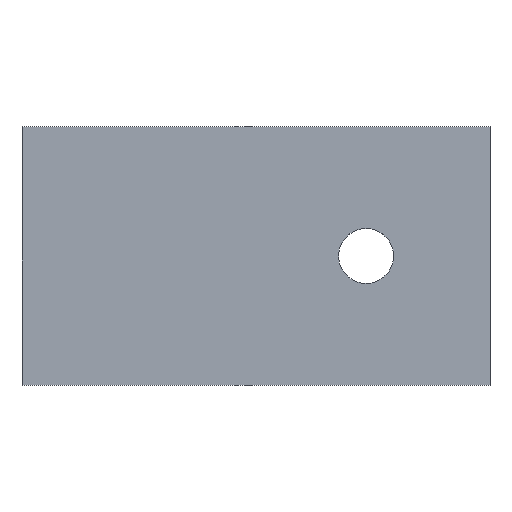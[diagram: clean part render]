
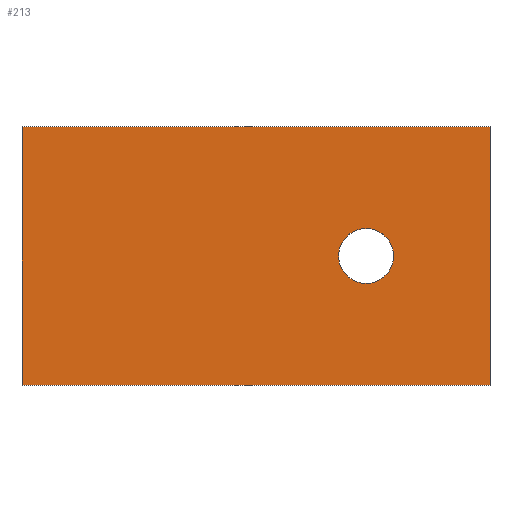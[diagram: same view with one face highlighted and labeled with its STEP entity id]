
A CAD part, top view. The second image highlights one B-rep face of the part: STEP entity #213.
In plain terms, the highlighted planar face has unit normal (0, 0, 1).
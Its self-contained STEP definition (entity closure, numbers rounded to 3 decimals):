
#24 = VERTEX_POINT('',#25);
#25 = CARTESIAN_POINT('',(-125.,-47.,-114.));
#32 = PLANE('',#33);
#33 = AXIS2_PLACEMENT_3D('',#34,#35,#36);
#34 = CARTESIAN_POINT('',(-125.,-47.,-120.));
#35 = DIRECTION('',(1.,0.,-0.));
#36 = DIRECTION('',(0.,0.,1.));
#44 = PLANE('',#45);
#45 = AXIS2_PLACEMENT_3D('',#46,#47,#48);
#46 = CARTESIAN_POINT('',(-125.,-47.,-120.));
#47 = DIRECTION('',(-0.,1.,0.));
#48 = DIRECTION('',(0.,0.,1.));
#85 = VERTEX_POINT('',#86);
#86 = CARTESIAN_POINT('',(-125.,47.,-114.));
#100 = PLANE('',#101);
#101 = AXIS2_PLACEMENT_3D('',#102,#103,#104);
#102 = CARTESIAN_POINT('',(-125.,47.,-120.));
#103 = DIRECTION('',(-0.,1.,0.));
#104 = DIRECTION('',(0.,0.,1.));
#112 = EDGE_CURVE('',#24,#85,#113,.T.);
#113 = SURFACE_CURVE('',#114,(#118,#125),.PCURVE_S1.);
#114 = LINE('',#115,#116);
#115 = CARTESIAN_POINT('',(-125.,-47.,-114.));
#116 = VECTOR('',#117,1.);
#117 = DIRECTION('',(-0.,1.,0.));
#118 = PCURVE('',#32,#119);
#119 = DEFINITIONAL_REPRESENTATION('',(#120),#124);
#120 = LINE('',#121,#122);
#121 = CARTESIAN_POINT('',(6.,0.));
#122 = VECTOR('',#123,1.);
#123 = DIRECTION('',(0.,-1.));
#124 = ( GEOMETRIC_REPRESENTATION_CONTEXT(2) 
PARAMETRIC_REPRESENTATION_CONTEXT() REPRESENTATION_CONTEXT('2D SPACE',''
  ) );
#125 = PCURVE('',#126,#131);
#126 = PLANE('',#127);
#127 = AXIS2_PLACEMENT_3D('',#128,#129,#130);
#128 = CARTESIAN_POINT('',(-125.,-47.,-114.));
#129 = DIRECTION('',(0.,0.,1.));
#130 = DIRECTION('',(1.,0.,-0.));
#131 = DEFINITIONAL_REPRESENTATION('',(#132),#136);
#132 = LINE('',#133,#134);
#133 = CARTESIAN_POINT('',(0.,0.));
#134 = VECTOR('',#135,1.);
#135 = DIRECTION('',(0.,1.));
#136 = ( GEOMETRIC_REPRESENTATION_CONTEXT(2) 
PARAMETRIC_REPRESENTATION_CONTEXT() REPRESENTATION_CONTEXT('2D SPACE',''
  ) );
#165 = EDGE_CURVE('',#24,#166,#168,.T.);
#166 = VERTEX_POINT('',#167);
#167 = CARTESIAN_POINT('',(45.,-47.,-114.));
#168 = SURFACE_CURVE('',#169,(#173,#180),.PCURVE_S1.);
#169 = LINE('',#170,#171);
#170 = CARTESIAN_POINT('',(-125.,-47.,-114.));
#171 = VECTOR('',#172,1.);
#172 = DIRECTION('',(1.,0.,-0.));
#173 = PCURVE('',#44,#174);
#174 = DEFINITIONAL_REPRESENTATION('',(#175),#179);
#175 = LINE('',#176,#177);
#176 = CARTESIAN_POINT('',(6.,0.));
#177 = VECTOR('',#178,1.);
#178 = DIRECTION('',(0.,1.));
#179 = ( GEOMETRIC_REPRESENTATION_CONTEXT(2) 
PARAMETRIC_REPRESENTATION_CONTEXT() REPRESENTATION_CONTEXT('2D SPACE',''
  ) );
#180 = PCURVE('',#126,#181);
#181 = DEFINITIONAL_REPRESENTATION('',(#182),#186);
#182 = LINE('',#183,#184);
#183 = CARTESIAN_POINT('',(0.,0.));
#184 = VECTOR('',#185,1.);
#185 = DIRECTION('',(1.,0.));
#186 = ( GEOMETRIC_REPRESENTATION_CONTEXT(2) 
PARAMETRIC_REPRESENTATION_CONTEXT() REPRESENTATION_CONTEXT('2D SPACE',''
  ) );
#202 = PLANE('',#203);
#203 = AXIS2_PLACEMENT_3D('',#204,#205,#206);
#204 = CARTESIAN_POINT('',(45.,-47.,-120.));
#205 = DIRECTION('',(1.,0.,-0.));
#206 = DIRECTION('',(0.,0.,1.));
#213 = ADVANCED_FACE('',(#214,#262),#126,.T.);
#214 = FACE_BOUND('',#215,.T.);
#215 = EDGE_LOOP('',(#216,#217,#218,#241));
#216 = ORIENTED_EDGE('',*,*,#112,.F.);
#217 = ORIENTED_EDGE('',*,*,#165,.T.);
#218 = ORIENTED_EDGE('',*,*,#219,.T.);
#219 = EDGE_CURVE('',#166,#220,#222,.T.);
#220 = VERTEX_POINT('',#221);
#221 = CARTESIAN_POINT('',(45.,47.,-114.));
#222 = SURFACE_CURVE('',#223,(#227,#234),.PCURVE_S1.);
#223 = LINE('',#224,#225);
#224 = CARTESIAN_POINT('',(45.,-47.,-114.));
#225 = VECTOR('',#226,1.);
#226 = DIRECTION('',(-0.,1.,0.));
#227 = PCURVE('',#126,#228);
#228 = DEFINITIONAL_REPRESENTATION('',(#229),#233);
#229 = LINE('',#230,#231);
#230 = CARTESIAN_POINT('',(170.,0.));
#231 = VECTOR('',#232,1.);
#232 = DIRECTION('',(0.,1.));
#233 = ( GEOMETRIC_REPRESENTATION_CONTEXT(2) 
PARAMETRIC_REPRESENTATION_CONTEXT() REPRESENTATION_CONTEXT('2D SPACE',''
  ) );
#234 = PCURVE('',#202,#235);
#235 = DEFINITIONAL_REPRESENTATION('',(#236),#240);
#236 = LINE('',#237,#238);
#237 = CARTESIAN_POINT('',(6.,0.));
#238 = VECTOR('',#239,1.);
#239 = DIRECTION('',(0.,-1.));
#240 = ( GEOMETRIC_REPRESENTATION_CONTEXT(2) 
PARAMETRIC_REPRESENTATION_CONTEXT() REPRESENTATION_CONTEXT('2D SPACE',''
  ) );
#241 = ORIENTED_EDGE('',*,*,#242,.F.);
#242 = EDGE_CURVE('',#85,#220,#243,.T.);
#243 = SURFACE_CURVE('',#244,(#248,#255),.PCURVE_S1.);
#244 = LINE('',#245,#246);
#245 = CARTESIAN_POINT('',(-125.,47.,-114.));
#246 = VECTOR('',#247,1.);
#247 = DIRECTION('',(1.,0.,-0.));
#248 = PCURVE('',#126,#249);
#249 = DEFINITIONAL_REPRESENTATION('',(#250),#254);
#250 = LINE('',#251,#252);
#251 = CARTESIAN_POINT('',(0.,94.));
#252 = VECTOR('',#253,1.);
#253 = DIRECTION('',(1.,0.));
#254 = ( GEOMETRIC_REPRESENTATION_CONTEXT(2) 
PARAMETRIC_REPRESENTATION_CONTEXT() REPRESENTATION_CONTEXT('2D SPACE',''
  ) );
#255 = PCURVE('',#100,#256);
#256 = DEFINITIONAL_REPRESENTATION('',(#257),#261);
#257 = LINE('',#258,#259);
#258 = CARTESIAN_POINT('',(6.,0.));
#259 = VECTOR('',#260,1.);
#260 = DIRECTION('',(0.,1.));
#261 = ( GEOMETRIC_REPRESENTATION_CONTEXT(2) 
PARAMETRIC_REPRESENTATION_CONTEXT() REPRESENTATION_CONTEXT('2D SPACE',''
  ) );
#262 = FACE_BOUND('',#263,.T.);
#263 = EDGE_LOOP('',(#264));
#264 = ORIENTED_EDGE('',*,*,#265,.F.);
#265 = EDGE_CURVE('',#266,#266,#268,.T.);
#266 = VERTEX_POINT('',#267);
#267 = CARTESIAN_POINT('',(10.,0.,-114.));
#268 = SURFACE_CURVE('',#269,(#274,#281),.PCURVE_S1.);
#269 = CIRCLE('',#270,10.);
#270 = AXIS2_PLACEMENT_3D('',#271,#272,#273);
#271 = CARTESIAN_POINT('',(0.,0.,-114.));
#272 = DIRECTION('',(0.,0.,1.));
#273 = DIRECTION('',(1.,0.,-0.));
#274 = PCURVE('',#126,#275);
#275 = DEFINITIONAL_REPRESENTATION('',(#276),#280);
#276 = CIRCLE('',#277,10.);
#277 = AXIS2_PLACEMENT_2D('',#278,#279);
#278 = CARTESIAN_POINT('',(125.,47.));
#279 = DIRECTION('',(1.,0.));
#280 = ( GEOMETRIC_REPRESENTATION_CONTEXT(2) 
PARAMETRIC_REPRESENTATION_CONTEXT() REPRESENTATION_CONTEXT('2D SPACE',''
  ) );
#281 = PCURVE('',#282,#287);
#282 = CYLINDRICAL_SURFACE('',#283,10.);
#283 = AXIS2_PLACEMENT_3D('',#284,#285,#286);
#284 = CARTESIAN_POINT('',(0.,0.,-121.));
#285 = DIRECTION('',(0.,0.,1.));
#286 = DIRECTION('',(1.,0.,-0.));
#287 = DEFINITIONAL_REPRESENTATION('',(#288),#292);
#288 = LINE('',#289,#290);
#289 = CARTESIAN_POINT('',(0.,7.));
#290 = VECTOR('',#291,1.);
#291 = DIRECTION('',(1.,0.));
#292 = ( GEOMETRIC_REPRESENTATION_CONTEXT(2) 
PARAMETRIC_REPRESENTATION_CONTEXT() REPRESENTATION_CONTEXT('2D SPACE',''
  ) );
